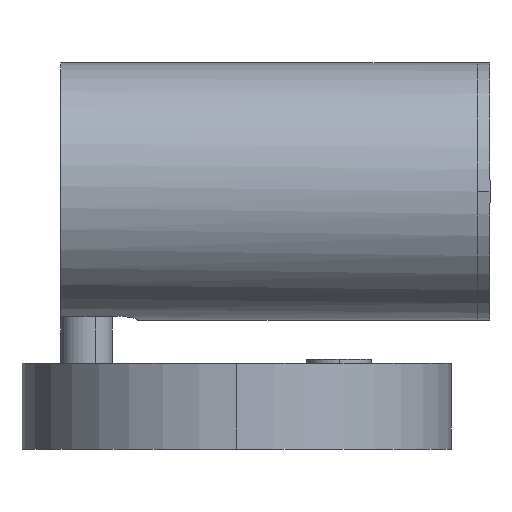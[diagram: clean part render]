
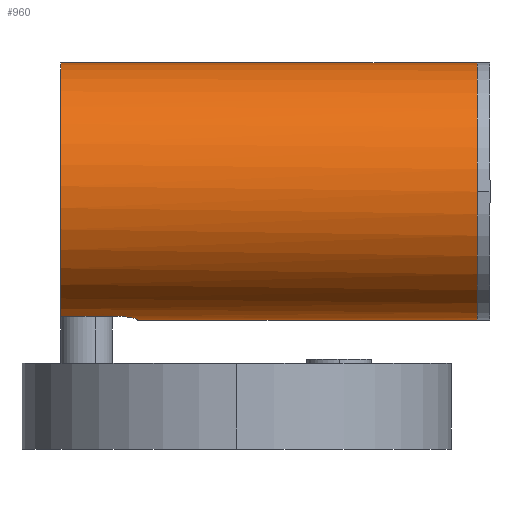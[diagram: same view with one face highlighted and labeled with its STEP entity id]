
A CAD part, left-side view. The second image highlights one B-rep face of the part: STEP entity #960.
In plain terms, the highlighted cylindrical face has radius 30 mm (diameter 60 mm), a partial arc.
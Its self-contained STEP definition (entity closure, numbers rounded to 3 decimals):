
#61 = CIRCLE ( 'NONE', #2818, 30. ) ;
#86 = CARTESIAN_POINT ( 'NONE',  ( -6.466, 24.938, 30.705 ) ) ;
#215 = LINE ( 'NONE', #2050, #2743 ) ;
#217 = AXIS2_PLACEMENT_3D ( 'NONE', #1965, #1950, #3904 ) ;
#252 = LINE ( 'NONE', #2139, #2876 ) ;
#328 = VERTEX_POINT ( 'NONE', #352 ) ;
#335 = ORIENTED_EDGE ( 'NONE', *, *, #3267, .F. ) ;
#342 = CARTESIAN_POINT ( 'NONE',  ( -2.831, 23., 30.132 ) ) ;
#352 = CARTESIAN_POINT ( 'NONE',  ( 0., 41., 90. ) ) ;
#382 = VERTEX_POINT ( 'NONE', #2433 ) ;
#403 = DIRECTION ( 'NONE',  ( 0., 1., 0. ) ) ;
#410 = CARTESIAN_POINT ( 'NONE',  ( -5.543, 24.019, 30.515 ) ) ;
#462 = DIRECTION ( 'NONE',  ( 0., 1., 0. ) ) ;
#506 = VERTEX_POINT ( 'NONE', #3418 ) ;
#590 = DIRECTION ( 'NONE',  ( 0., 1., 0. ) ) ;
#659 = CARTESIAN_POINT ( 'NONE',  ( -3.635, 23.128, 30.221 ) ) ;
#727 = CARTESIAN_POINT ( 'NONE',  ( -7.336, 26.689, 30.911 ) ) ;
#754 = CARTESIAN_POINT ( 'NONE',  ( -7.5, 27.668, 30.953 ) ) ;
#960 = ADVANCED_FACE ( 'NONE', ( #1801 ), #1328, .T. ) ;
#1036 = VERTEX_POINT ( 'NONE', #2571 ) ;
#1059 = CARTESIAN_POINT ( 'NONE',  ( -6.832, 25.482, 30.788 ) ) ;
#1082 = LINE ( 'NONE', #3138, #4183 ) ;
#1194 = ORIENTED_EDGE ( 'NONE', *, *, #1947, .F. ) ;
#1283 = VERTEX_POINT ( 'NONE', #3878 ) ;
#1317 = CARTESIAN_POINT ( 'NONE',  ( -4.263, 23.318, 30.304 ) ) ;
#1322 = B_SPLINE_CURVE_WITH_KNOTS ( 'NONE', 3,
 ( #2670, #342, #2639, #659, #1670, #2347, #1317, #2742, #2402, #410, #2714, #1373, #86, #1059, #3351, #3064, #727, #3361, #754, #3037 ),
 .UNSPECIFIED., .F., .F.,
 ( 4, 2, 2, 2, 2, 2, 2, 2, 2, 4 ),
 ( 0., 0.001, 0.001, 0.002, 0.003, 0.004, 0.005, 0.006, 0.007, 0.008 ),
 .UNSPECIFIED. ) ;
#1328 = CYLINDRICAL_SURFACE ( 'NONE', #1819, 30. ) ;
#1373 = CARTESIAN_POINT ( 'NONE',  ( -6.259, 24.687, 30.659 ) ) ;
#1457 = EDGE_CURVE ( 'NONE', #382, #2835, #252, .T. ) ;
#1520 = DIRECTION ( 'NONE',  ( 0., 1., 0. ) ) ;
#1670 = CARTESIAN_POINT ( 'NONE',  ( -3.794, 23.167, 30.24 ) ) ;
#1801 = FACE_OUTER_BOUND ( 'NONE', #2061, .T. ) ;
#1819 = AXIS2_PLACEMENT_3D ( 'NONE', #2383, #3724, #2118 ) ;
#1872 = CIRCLE ( 'NONE', #217, 30. ) ;
#1889 = EDGE_CURVE ( 'NONE', #1036, #1283, #1082, .T. ) ;
#1947 = EDGE_CURVE ( 'NONE', #2835, #3722, #2838, .T. ) ;
#1950 = DIRECTION ( 'NONE',  ( 0., 1., 0. ) ) ;
#1965 = CARTESIAN_POINT ( 'NONE',  ( 0., -56., 60. ) ) ;
#2050 = CARTESIAN_POINT ( 'NONE',  ( 0., -56., 90. ) ) ;
#2061 = EDGE_LOOP ( 'NONE', ( #2582, #2266, #2632, #4186, #2079, #335, #1194 ) ) ;
#2079 = ORIENTED_EDGE ( 'NONE', *, *, #1889, .F. ) ;
#2118 = DIRECTION ( 'NONE',  ( 0., 0., 1. ) ) ;
#2139 = CARTESIAN_POINT ( 'NONE',  ( 0., -56., 30. ) ) ;
#2266 = ORIENTED_EDGE ( 'NONE', *, *, #3558, .T. ) ;
#2284 = EDGE_CURVE ( 'NONE', #506, #328, #215, .T. ) ;
#2347 = CARTESIAN_POINT ( 'NONE',  ( -4.107, 23.262, 30.282 ) ) ;
#2383 = CARTESIAN_POINT ( 'NONE',  ( 0., -56., 60. ) ) ;
#2402 = CARTESIAN_POINT ( 'NONE',  ( -5.002, 23.659, 30.419 ) ) ;
#2407 = CARTESIAN_POINT ( 'NONE',  ( 0., 41., 60. ) ) ;
#2433 = CARTESIAN_POINT ( 'NONE',  ( 0., -56., 30. ) ) ;
#2571 = CARTESIAN_POINT ( 'NONE',  ( -7.5, 28., 30.953 ) ) ;
#2582 = ORIENTED_EDGE ( 'NONE', *, *, #1457, .F. ) ;
#2632 = ORIENTED_EDGE ( 'NONE', *, *, #2284, .T. ) ;
#2639 = CARTESIAN_POINT ( 'NONE',  ( -3.156, 23.033, 30.165 ) ) ;
#2670 = CARTESIAN_POINT ( 'NONE',  ( -2.5, 23., 30.104 ) ) ;
#2714 = CARTESIAN_POINT ( 'NONE',  ( -5.799, 24.229, 30.565 ) ) ;
#2742 = CARTESIAN_POINT ( 'NONE',  ( -4.715, 23.506, 30.371 ) ) ;
#2743 = VECTOR ( 'NONE', #3852, 1000. ) ;
#2746 = DIRECTION ( 'NONE',  ( 0., 0., 1. ) ) ;
#2766 = EDGE_CURVE ( 'NONE', #1283, #328, #61, .T. ) ;
#2818 = AXIS2_PLACEMENT_3D ( 'NONE', #2407, #403, #2746 ) ;
#2835 = VERTEX_POINT ( 'NONE', #3983 ) ;
#2838 = CIRCLE ( 'NONE', #3139, 30. ) ;
#2876 = VECTOR ( 'NONE', #462, 1000. ) ;
#3037 = CARTESIAN_POINT ( 'NONE',  ( -7.5, 28., 30.953 ) ) ;
#3064 = CARTESIAN_POINT ( 'NONE',  ( -7.24, 26.374, 30.886 ) ) ;
#3138 = CARTESIAN_POINT ( 'NONE',  ( -7.5, -56., 30.953 ) ) ;
#3139 = AXIS2_PLACEMENT_3D ( 'NONE', #3514, #590, #3196 ) ;
#3196 = DIRECTION ( 'NONE',  ( 0., 0., -1. ) ) ;
#3267 = EDGE_CURVE ( 'NONE', #3722, #1036, #1322, .T. ) ;
#3351 = CARTESIAN_POINT ( 'NONE',  ( -6.988, 25.773, 30.825 ) ) ;
#3361 = CARTESIAN_POINT ( 'NONE',  ( -7.467, 27.339, 30.944 ) ) ;
#3418 = CARTESIAN_POINT ( 'NONE',  ( 0., -56., 90. ) ) ;
#3514 = CARTESIAN_POINT ( 'NONE',  ( 0., 23., 60. ) ) ;
#3558 = EDGE_CURVE ( 'NONE', #382, #506, #1872, .T. ) ;
#3722 = VERTEX_POINT ( 'NONE', #4198 ) ;
#3724 = DIRECTION ( 'NONE',  ( 0., 1., 0. ) ) ;
#3852 = DIRECTION ( 'NONE',  ( 0., 1., 0. ) ) ;
#3878 = CARTESIAN_POINT ( 'NONE',  ( -7.5, 41., 30.953 ) ) ;
#3904 = DIRECTION ( 'NONE',  ( 0., 0., 1. ) ) ;
#3983 = CARTESIAN_POINT ( 'NONE',  ( 0., 23., 30. ) ) ;
#4183 = VECTOR ( 'NONE', #1520, 1000. ) ;
#4186 = ORIENTED_EDGE ( 'NONE', *, *, #2766, .F. ) ;
#4198 = CARTESIAN_POINT ( 'NONE',  ( -2.5, 23., 30.104 ) ) ;
